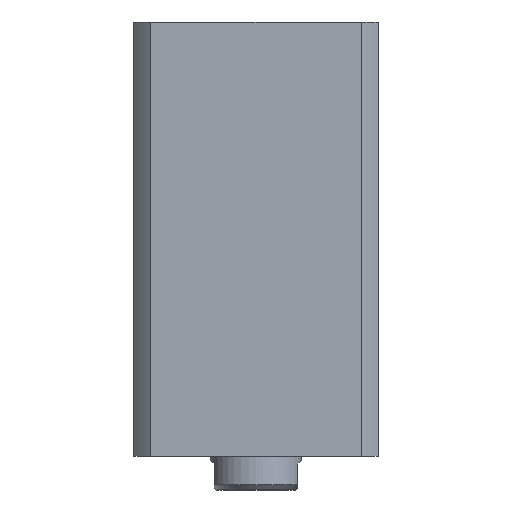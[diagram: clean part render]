
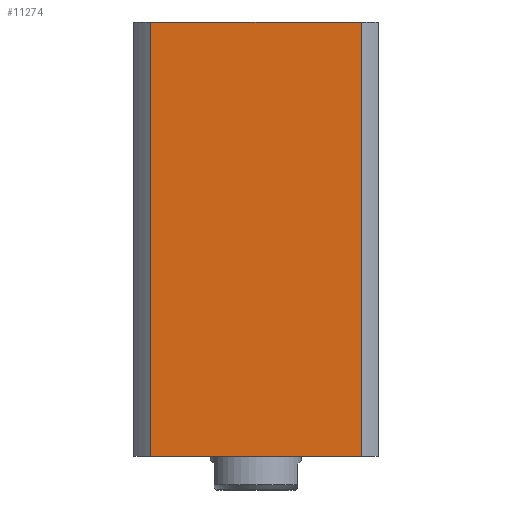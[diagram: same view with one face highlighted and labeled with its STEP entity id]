
A CAD part, front view. The second image highlights one B-rep face of the part: STEP entity #11274.
In plain terms, the highlighted planar face has unit normal (0, -1, 0) as drawn and (0, 1, 0) by its records, which use the part's own axes.
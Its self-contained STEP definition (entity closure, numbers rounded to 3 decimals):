
#57 = CARTESIAN_POINT ( 'NONE',  ( -40.435, 47., -2833. ) ) ;
#490 = VECTOR ( 'NONE', #8200, 1000. ) ;
#613 = VECTOR ( 'NONE', #12844, 1000. ) ;
#675 = VECTOR ( 'NONE', #6404, 1000. ) ;
#1000 = DIRECTION ( 'NONE',  ( 0., -1., 0. ) ) ;
#1455 = ORIENTED_EDGE ( 'NONE', *, *, #15783, .F. ) ;
#1728 = VERTEX_POINT ( 'NONE', #7326 ) ;
#2248 = ORIENTED_EDGE ( 'NONE', *, *, #16483, .T. ) ;
#3622 = LINE ( 'NONE', #57, #490 ) ;
#3641 = VECTOR ( 'NONE', #11316, 1000. ) ;
#3755 = ORIENTED_EDGE ( 'NONE', *, *, #7548, .F. ) ;
#4026 = ORIENTED_EDGE ( 'NONE', *, *, #14051, .F. ) ;
#4185 = LINE ( 'NONE', #4516, #613 ) ;
#4516 = CARTESIAN_POINT ( 'NONE',  ( -47., 47., 167. ) ) ;
#4674 = LINE ( 'NONE', #5024, #675 ) ;
#4993 = FACE_OUTER_BOUND ( 'NONE', #9465, .T. ) ;
#5024 = CARTESIAN_POINT ( 'NONE',  ( -47., 47., 0. ) ) ;
#6404 = DIRECTION ( 'NONE',  ( -1., 0., 0. ) ) ;
#6516 = AXIS2_PLACEMENT_3D ( 'NONE', #16089, #1000, #10560 ) ;
#7305 = LINE ( 'NONE', #9910, #3641 ) ;
#7326 = CARTESIAN_POINT ( 'NONE',  ( 40.435, 47., 0. ) ) ;
#7543 = VERTEX_POINT ( 'NONE', #12731 ) ;
#7548 = EDGE_CURVE ( 'NONE', #12817, #7543, #4185, .T. ) ;
#8200 = DIRECTION ( 'NONE',  ( 0., 0., -1. ) ) ;
#8416 = VERTEX_POINT ( 'NONE', #9653 ) ;
#9465 = EDGE_LOOP ( 'NONE', ( #4026, #2248, #1455, #3755 ) ) ;
#9653 = CARTESIAN_POINT ( 'NONE',  ( -40.435, 47., 0. ) ) ;
#9910 = CARTESIAN_POINT ( 'NONE',  ( 40.435, 47., -2833. ) ) ;
#10560 = DIRECTION ( 'NONE',  ( 0., 0., -1. ) ) ;
#10913 = CARTESIAN_POINT ( 'NONE',  ( 40.435, 47., 167. ) ) ;
#11274 = ADVANCED_FACE ( 'NONE', ( #4993 ), #14689, .F. ) ;
#11316 = DIRECTION ( 'NONE',  ( 0., 0., 1. ) ) ;
#12731 = CARTESIAN_POINT ( 'NONE',  ( -40.435, 47., 167. ) ) ;
#12817 = VERTEX_POINT ( 'NONE', #10913 ) ;
#12844 = DIRECTION ( 'NONE',  ( -1., 0., 0. ) ) ;
#14051 = EDGE_CURVE ( 'NONE', #1728, #12817, #7305, .T. ) ;
#14689 = PLANE ( 'NONE',  #6516 ) ;
#15783 = EDGE_CURVE ( 'NONE', #7543, #8416, #3622, .T. ) ;
#16089 = CARTESIAN_POINT ( 'NONE',  ( -47., 47., 167. ) ) ;
#16483 = EDGE_CURVE ( 'NONE', #1728, #8416, #4674, .T. ) ;
